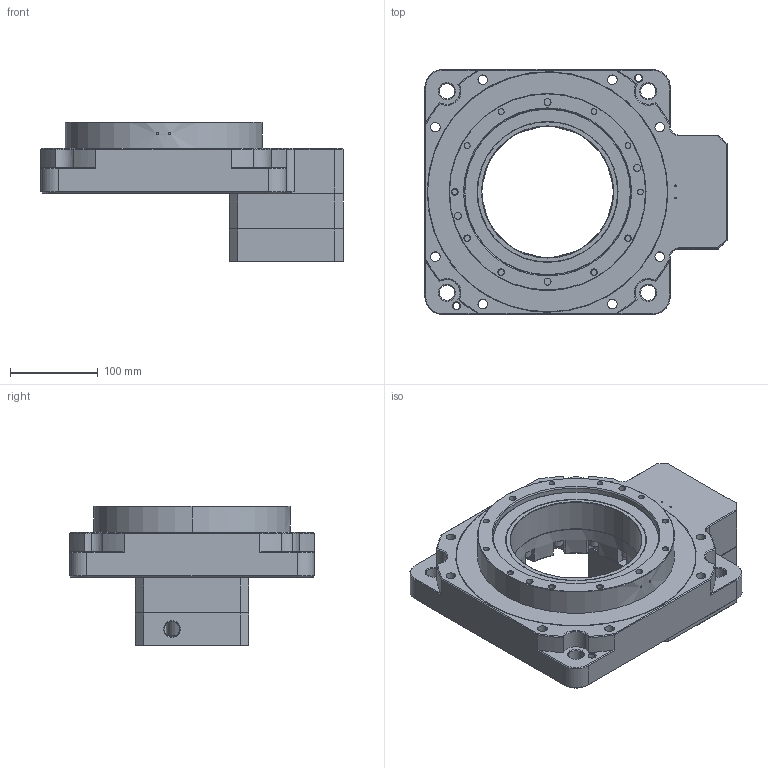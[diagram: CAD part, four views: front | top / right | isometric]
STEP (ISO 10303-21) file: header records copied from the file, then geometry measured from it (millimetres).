
FILE_DESCRIPTION (( 'STEP AP203' ), '1' );
FILE_NAME ('NT280-10-24-ds.STEP', '2021-08-06T06:50:51', ( 'Windows User' ), ( 'P R C' ), 'SwSTEP 2.0', 'SolidWorks 2016', '' );
FILE_SCHEMA (( 'CONFIG_CONTROL_DESIGN' ));
Products named in the file (1): NT280-10-24-ds
Bounding box: 345 x 280 x 159.5 mm (x, y, z)
Volume: 4401834.6 mm3; surface area: 654867.2 mm2
Topology: 1 solids, 67 shells, 2488 faces, 6109 edges, 3828 vertices
Faces by surface type: plane 1211, cylinder 566, cone 540, bspline 126, torus 43, sphere 2
Entity records: 80959 total; most frequent: CARTESIAN_POINT 22202, DIRECTION 12347, ORIENTED_EDGE 12046, EDGE_CURVE 6023, AXIS2_PLACEMENT_3D 4577, VERTEX_POINT 3828, LINE 3193, VECTOR 3193
